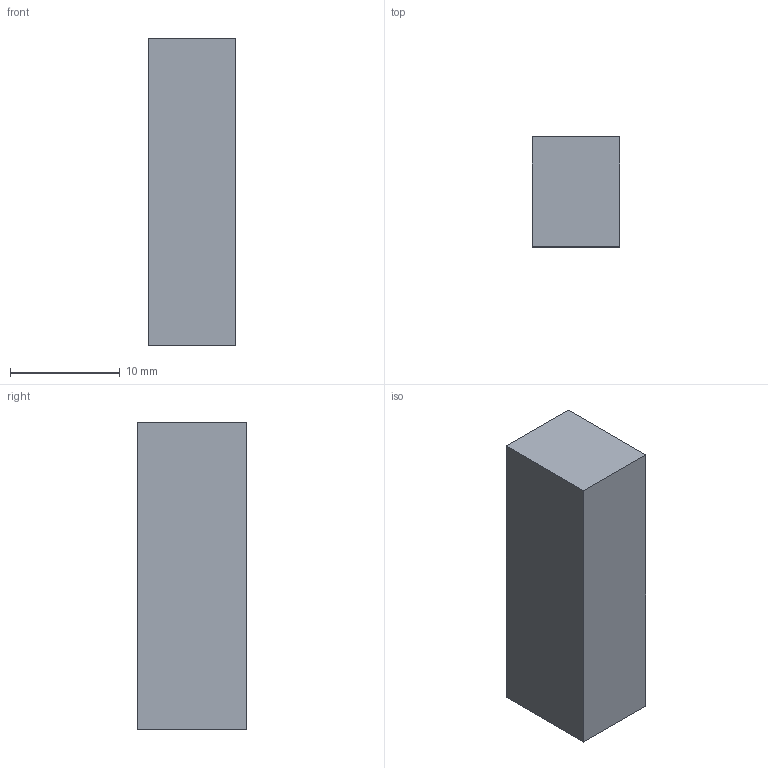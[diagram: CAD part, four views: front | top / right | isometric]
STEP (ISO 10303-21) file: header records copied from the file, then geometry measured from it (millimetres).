
FILE_DESCRIPTION(('Open CASCADE Model'),'2;1');
FILE_NAME('Open CASCADE Shape Model','2026-10-04T01:02:31',('Author'),( 'Open CASCADE'),'Open CASCADE STEP processor 8.0','Open CASCADE 8.0' ,'Unknown');
FILE_SCHEMA(('AUTOMOTIVE_DESIGN { 1 0 10303 214 1 1 1 1 }'));
Length unit declared in the file: millimetre
Products named in the file (1): Open CASCADE STEP translator 8.0 254
Bounding box: 8 x 10 x 28 mm (x, y, z)
Volume: 2240 mm3; surface area: 1168 mm2
Topology: 1 solids, 1 shells, 6 faces, 12 edges, 8 vertices
Faces by surface type: plane 6
Entity records: 322 total; most frequent: CARTESIAN_POINT 51, DIRECTION 50, LINE 36, VECTOR 36, ORIENTED_EDGE 24, PCURVE 24, DEFINITIONAL_REPRESENTATION 24, EDGE_CURVE 12
